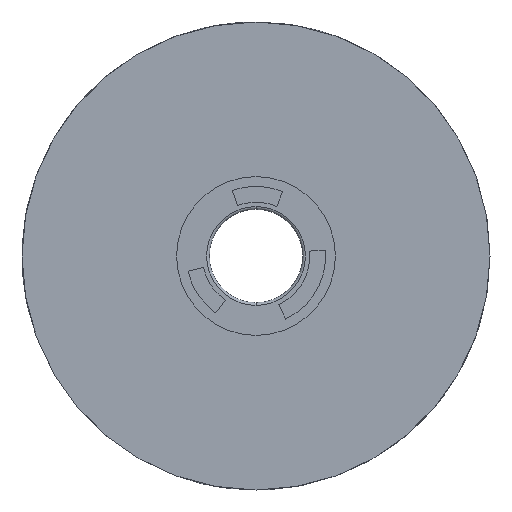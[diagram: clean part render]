
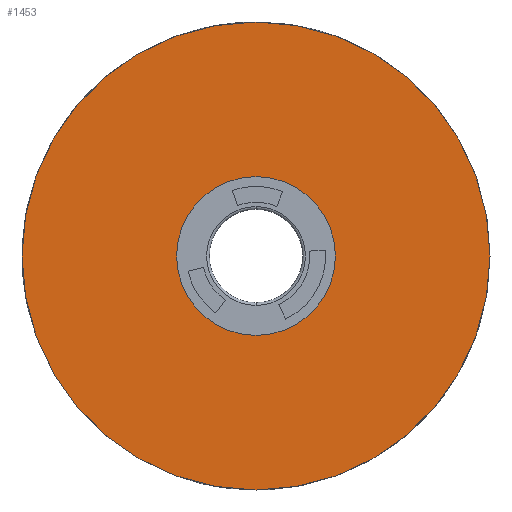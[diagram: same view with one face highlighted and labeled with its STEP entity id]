
A CAD part, front view. The second image highlights one B-rep face of the part: STEP entity #1453.
In plain terms, the highlighted planar face has unit normal (0, -1, 0).
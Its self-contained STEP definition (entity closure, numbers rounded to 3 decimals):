
#30 = CIRCLE ( 'NONE', #2908, 14.25 ) ;
#422 = VERTEX_POINT ( 'NONE', #846 ) ;
#554 = FACE_BOUND ( 'NONE', #2826, .T. ) ;
#584 = CIRCLE ( 'NONE', #2318, 14.25 ) ;
#604 = CARTESIAN_POINT ( 'NONE',  ( 0., -9.45, 0. ) ) ;
#609 = DIRECTION ( 'NONE',  ( 0., -1., 0. ) ) ;
#782 = CARTESIAN_POINT ( 'NONE',  ( 0., -9.45, 42. ) ) ;
#846 = CARTESIAN_POINT ( 'NONE',  ( 0., -9.45, -42. ) ) ;
#951 = CARTESIAN_POINT ( 'NONE',  ( 0., -9.45, 14.25 ) ) ;
#1132 = CARTESIAN_POINT ( 'NONE',  ( 0., -9.45, -8.375 ) ) ;
#1157 = DIRECTION ( 'NONE',  ( 0., 0., -1. ) ) ;
#1200 = CARTESIAN_POINT ( 'NONE',  ( 0., -9.45, 0. ) ) ;
#1275 = EDGE_CURVE ( 'NONE', #2237, #3315, #30, .T. ) ;
#1367 = CIRCLE ( 'NONE', #3369, 42. ) ;
#1436 = PLANE ( 'NONE',  #3517 ) ;
#1453 = ADVANCED_FACE ( 'NONE', ( #554, #2823 ), #1436, .T. ) ;
#1477 = ORIENTED_EDGE ( 'NONE', *, *, #1872, .T. ) ;
#1568 = ORIENTED_EDGE ( 'NONE', *, *, #1275, .F. ) ;
#1644 = DIRECTION ( 'NONE',  ( 0., 0., -1. ) ) ;
#1690 = CARTESIAN_POINT ( 'NONE',  ( 0., -9.45, 0. ) ) ;
#1827 = DIRECTION ( 'NONE',  ( 0., -1., 0. ) ) ;
#1872 = EDGE_CURVE ( 'NONE', #3374, #422, #1367, .T. ) ;
#1918 = DIRECTION ( 'NONE',  ( 0., -1., 0. ) ) ;
#1963 = AXIS2_PLACEMENT_3D ( 'NONE', #2686, #1827, #2920 ) ;
#2067 = ORIENTED_EDGE ( 'NONE', *, *, #3532, .F. ) ;
#2101 = ORIENTED_EDGE ( 'NONE', *, *, #2399, .T. ) ;
#2145 = CIRCLE ( 'NONE', #1963, 42. ) ;
#2237 = VERTEX_POINT ( 'NONE', #2527 ) ;
#2298 = DIRECTION ( 'NONE',  ( 0., -1., 0. ) ) ;
#2318 = AXIS2_PLACEMENT_3D ( 'NONE', #1690, #2792, #1157 ) ;
#2384 = EDGE_LOOP ( 'NONE', ( #2101, #1477 ) ) ;
#2399 = EDGE_CURVE ( 'NONE', #422, #3374, #2145, .T. ) ;
#2527 = CARTESIAN_POINT ( 'NONE',  ( 0., -9.45, -14.25 ) ) ;
#2686 = CARTESIAN_POINT ( 'NONE',  ( 0., -9.45, 0. ) ) ;
#2792 = DIRECTION ( 'NONE',  ( 0., -1., 0. ) ) ;
#2803 = DIRECTION ( 'NONE',  ( 0., 0., -1. ) ) ;
#2823 = FACE_OUTER_BOUND ( 'NONE', #2384, .T. ) ;
#2826 = EDGE_LOOP ( 'NONE', ( #1568, #2067 ) ) ;
#2908 = AXIS2_PLACEMENT_3D ( 'NONE', #1200, #2298, #3377 ) ;
#2920 = DIRECTION ( 'NONE',  ( 0., 0., -1. ) ) ;
#3315 = VERTEX_POINT ( 'NONE', #951 ) ;
#3369 = AXIS2_PLACEMENT_3D ( 'NONE', #604, #1918, #1644 ) ;
#3374 = VERTEX_POINT ( 'NONE', #782 ) ;
#3377 = DIRECTION ( 'NONE',  ( 0., 0., -1. ) ) ;
#3517 = AXIS2_PLACEMENT_3D ( 'NONE', #1132, #609, #2803 ) ;
#3532 = EDGE_CURVE ( 'NONE', #3315, #2237, #584, .T. ) ;
